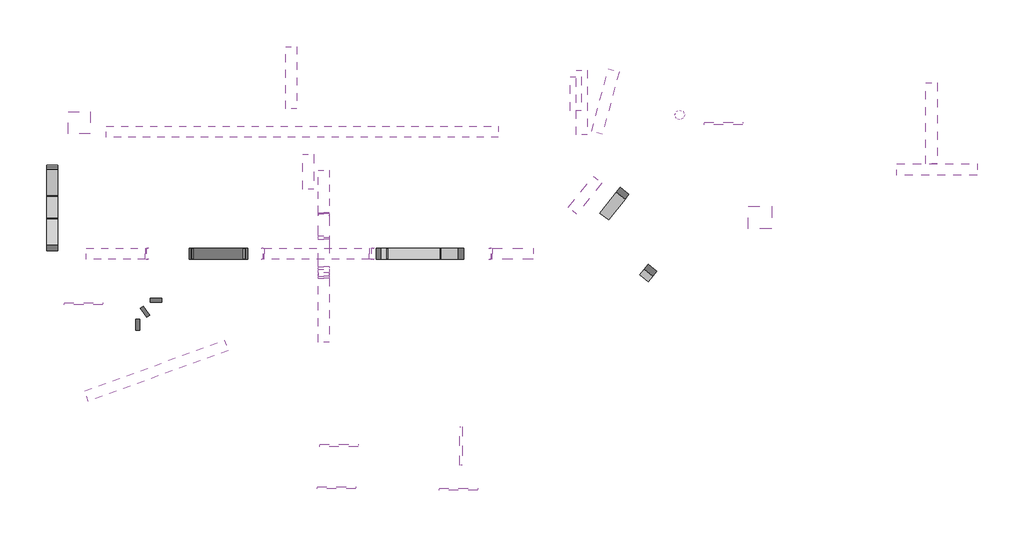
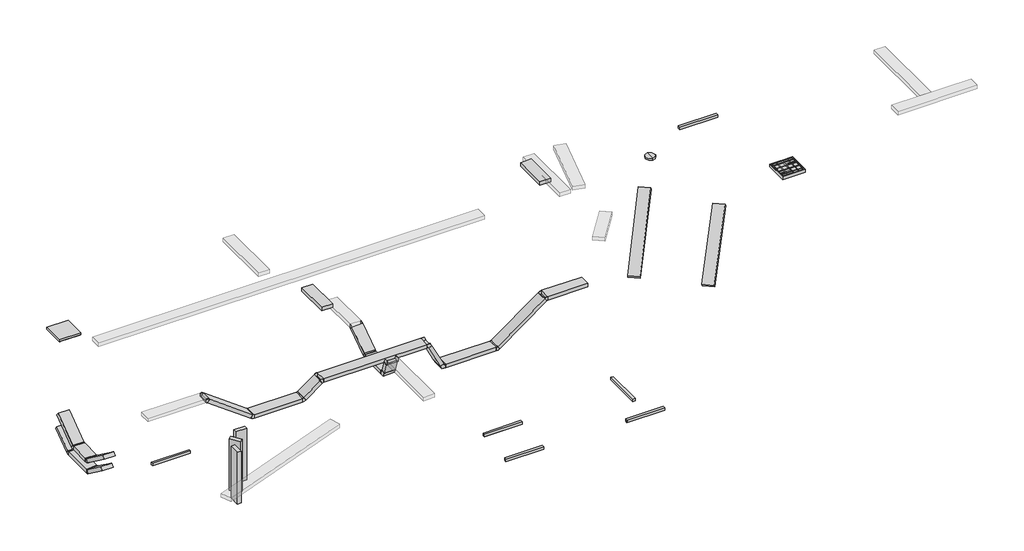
# One storey: 33 cable carrier segments, 16 cable carrier fittings, 9 light fixtures, 2 proxies.
"""IFC4 building model written with IfcOpenShell, lengths in millimetres."""

from ifc_helpers import new_model, si_unit, frame, origin, place, context, project, spatial, polyline, outline, extrude, transform, mapped, element, save
from components import cable_carrier_fitting_02251f9b, cable_carrier_fitting_fe5ecedc, cable_carrier_fitting_9b6415eb, cable_carrier_fitting_767802be, cable_carrier_fitting_05069e89, cable_carrier_fitting_a1beeaea, cable_carrier_fitting_74e421d1, cable_carrier_fitting_858e07ad, light_fixture_91a3bebd, light_fixture_7fb6fe20, light_fixture_b0669a9f, light_fixture_a1cd45f6

model = new_model("IFC4")

# Units and contexts
model_context = context("Model", 3, world=origin())
ifc_project = project(units=[si_unit("LENGTHUNIT", "METRE", prefix="MILLI")], contexts=[model_context])

# Site, building, storey
site = spatial("IfcSite", under=ifc_project)
building = spatial("IfcBuilding", under=site)
storey = spatial("IfcBuildingStorey", under=building, Name="Этаж 2", Elevation=2700.0)

# Proxies
placement = place(None, origin())
element("IfcBuildingElementProxy", 1, Name="Generic Models", at=placement, inside=storey, context=model_context, shape_type="SweptSolid", body=[
    extrude(outline(polyline([(4804.0620273, 5206.4556977), (4804.0620273, 6149.0371671), (5104.0620273, 6149.0371671), (5104.0620273, 5206.4556977), (4804.0620273, 5206.4556977)])), frame((0.0, 0.0, 4777.3029083), z_axis=(0.0, 0.0, 1.0), x_axis=(1.0, 0.0, 0.0)), (0.0, 0.0, 1.0), 100.0),
])
element("IfcBuildingElementProxy", 2, Name="Generic Models", at=placement, inside=storey, context=model_context, shape_type="SweptSolid", body=[
    extrude(outline(polyline([(12329.8443346, 7333.2443435), (12029.8443346, 7333.2443435), (12029.8443346, 8254.998348), (12329.8443346, 8254.998348), (12329.8443346, 7333.2443435)])), frame((0.0, 0.0, 4606.0342244), z_axis=(0.0, 0.0, 1.0), x_axis=(1.0, 0.0, 0.0)), (0.0, 0.0, 1.0), 100.0),
])

# Cable carrier fittings
cable_carrier_fitting_shape = cable_carrier_fitting_02251f9b(model_context)
element("IfcCableCarrierFitting", 3, ObjectType="ADSK_Поворот вертикальный внутренний_Минимальный размер : Неперфорированный", at=placement, inside=storey, context=model_context, shape_type="MappedRepresentation", body=[
    mapped(cable_carrier_fitting_shape, transform((8545.9883034, 3461.8472875, 3516.9108818), x_axis=(1.0, 0.0, 0.0), y_axis=(0.0, 0.0, 1.0), z_axis=(0.0, -1.0, 0.0))),
])
element("IfcCableCarrierFitting", 4, ObjectType="ADSK_Поворот вертикальный внутренний_Минимальный размер : Неперфорированный", at=placement, inside=storey, context=model_context, shape_type="MappedRepresentation", body=[
    mapped(cable_carrier_fitting_shape, transform((1820.5676861, 3461.8472875, 3894.8107115), x_axis=(0.8090169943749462, 0.0, -0.5877852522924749), y_axis=(0.5877852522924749, 0.0, 0.8090169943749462), z_axis=(0.0, -1.0, 0.0))),
])
element("IfcCableCarrierFitting", 5, ObjectType="ADSK_Поворот вертикальный внутренний_Минимальный размер : Неперфорированный", at=placement, inside=storey, context=model_context, shape_type="MappedRepresentation", body=[
    mapped(cable_carrier_fitting_shape, transform((3220.5676861, 3461.8472875, 3894.8107115), x_axis=(1.0, 0.0, 0.0), y_axis=(0.0, 0.0, 1.0), z_axis=(0.0, -1.0, 0.0))),
])
element("IfcCableCarrierFitting", 6, ObjectType="ADSK_Поворот вертикальный внутренний_Минимальный размер : Неперфорированный", at=placement, inside=storey, context=model_context, shape_type="MappedRepresentation", body=[
    mapped(cable_carrier_fitting_shape, transform((-1977.1885745, 5043.7276307, 3337.0925191), x_axis=(0.0, -0.809016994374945, -0.5877852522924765), y_axis=(0.0, -0.5877852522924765, 0.809016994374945), z_axis=(-1.0, 0.0, 0.0))),
])
element("IfcCableCarrierFitting", 7, ObjectType="ADSK_Поворот вертикальный внутренний_Минимальный размер : Неперфорированный", at=placement, inside=storey, context=model_context, shape_type="MappedRepresentation", body=[
    mapped(cable_carrier_fitting_shape, transform((-1977.1885745, 4403.7276307, 3337.0925191), x_axis=(0.0, -1.0, 0.0), y_axis=(0.0, 0.0, 1.0), z_axis=(-1.0, 0.0, 0.0))),
])
element("IfcCableCarrierFitting", 8, ObjectType="ADSK_Поворот вертикальный внутренний_Минимальный размер : Неперфорированный", at=placement, inside=storey, context=model_context, shape_type="MappedRepresentation", body=[
    mapped(cable_carrier_fitting_shape, transform((-1977.1885745, 4374.1457068, 3039.0596744), x_axis=(0.0, -1.0, 0.0), y_axis=(0.0, 0.0, 1.0), z_axis=(-1.0, 0.0, 0.0))),
])
element("IfcCableCarrierFitting", 9, ObjectType="ADSK_Поворот вертикальный внутренний_Минимальный размер : Неперфорированный", at=placement, inside=storey, context=model_context, shape_type="MappedRepresentation", body=[
    mapped(cable_carrier_fitting_shape, transform((-1977.1885745, 5274.1457068, 3039.0596744), x_axis=(0.0, 1.0, 0.0), y_axis=(0.0, 0.0, 1.0), z_axis=(1.0, 0.0, 0.0))),
])
cable_carrier_fitting_2_shape = cable_carrier_fitting_fe5ecedc(model_context)
element("IfcCableCarrierFitting", 10, ObjectType="ADSK_Поворот вертикальный наружный_Минимальный размер : Неперфорированный", at=placement, inside=storey, context=model_context, shape_type="MappedRepresentation", body=[
    mapped(cable_carrier_fitting_2_shape, transform((9891.245706, 3461.8472875, 4494.2975958), x_axis=(0.8090169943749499, 0.0, 0.5877852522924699), y_axis=(0.5877852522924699, 0.0, -0.8090169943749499), z_axis=(0.0, 1.0, 0.0))),
])
element("IfcCableCarrierFitting", 11, ObjectType="ADSK_Поворот вертикальный наружный_Минимальный размер : Неперфорированный", at=placement, inside=storey, context=model_context, shape_type="MappedRepresentation", body=[
    mapped(cable_carrier_fitting_2_shape, transform((574.6815147, 3461.8472875, 4800.0), x_axis=(1.0, 0.0, 0.0), y_axis=(0.0, 0.0, -1.0), z_axis=(0.0, 1.0, 0.0))),
])
element("IfcCableCarrierFitting", 12, ObjectType="ADSK_Поворот вертикальный наружный_Минимальный размер : Неперфорированный", at=placement, inside=storey, context=model_context, shape_type="MappedRepresentation", body=[
    mapped(cable_carrier_fitting_2_shape, transform((3730.5800203, 3461.8472875, 4265.3563621), x_axis=(0.8090169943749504, 0.0, 0.5877852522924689), y_axis=(0.5877852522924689, 0.0, -0.8090169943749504), z_axis=(0.0, 1.0, 0.0))),
])
cable_carrier_fitting_3_shape = cable_carrier_fitting_9b6415eb(model_context)
element("IfcCableCarrierFitting", 13, ObjectType="ADSK_Поворот вертикальный наружный_Минимальный размер : Неперфорированный", at=placement, inside=storey, context=model_context, shape_type="MappedRepresentation", body=[
    mapped(cable_carrier_fitting_3_shape, transform((6664.6362837, 3461.8472875, 4265.3563621), x_axis=(-0.45399049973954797, 0.0, 0.8910065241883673), y_axis=(-0.8910065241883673, 0.0, -0.45399049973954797), z_axis=(0.0, -1.0, 0.0))),
])
cable_carrier_fitting_4_shape = cable_carrier_fitting_767802be(model_context)
element("IfcCableCarrierFitting", 14, ObjectType="ADSK_Поворот вертикальный внутренний_Минимальный размер : Неперфорированный", at=placement, inside=storey, context=model_context, shape_type="MappedRepresentation", body=[
    mapped(cable_carrier_fitting_4_shape, transform((7045.9883034, 3461.8472875, 3516.9108818), x_axis=(0.45399049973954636, 0.0, -0.8910065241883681), y_axis=(0.8910065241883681, 0.0, 0.45399049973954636), z_axis=(0.0, -1.0, 0.0))),
])
cable_carrier_fitting_5_shape = cable_carrier_fitting_05069e89(model_context)
element("IfcCableCarrierFitting", 15, ObjectType="ADSK_Поворот вертикальный наружный_Минимальный размер : Неперфорированный", at=placement, inside=storey, context=model_context, shape_type="MappedRepresentation", body=[
    mapped(cable_carrier_fitting_5_shape, transform((5373.3360347, 4546.6029193, 4568.6284878), x_axis=(0.0, -1.0, 0.0), y_axis=(0.0, 0.0, -1.0), z_axis=(1.0, 0.0, 0.0))),
])
cable_carrier_fitting_6_shape = cable_carrier_fitting_a1beeaea(model_context)
element("IfcCableCarrierFitting", 16, ObjectType="ADSK_Поворот вертикальный внутренний_Минимальный размер : Неперфорированный", at=placement, inside=storey, context=model_context, shape_type="MappedRepresentation", body=[
    mapped(cable_carrier_fitting_6_shape, transform((5373.3360347, 3893.4529848, 4128.0732942), x_axis=(0.0, -0.8290375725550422, -0.5591929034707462), y_axis=(0.0, -0.5591929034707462, 0.8290375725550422), z_axis=(-1.0, 0.0, 0.0))),
])
cable_carrier_fitting_7_shape = cable_carrier_fitting_74e421d1(model_context)
element("IfcCableCarrierFitting", 17, ObjectType="ADSK_Поворот вертикальный внутренний_Минимальный размер : Неперфорированный", at=placement, inside=storey, context=model_context, shape_type="MappedRepresentation", body=[
    mapped(cable_carrier_fitting_7_shape, transform((5373.3360347, 3028.4529848, 4128.0732942), x_axis=(0.0, -1.0, 0.0), y_axis=(0.0, 0.0, 1.0), z_axis=(-1.0, 0.0, 0.0))),
])
cable_carrier_fitting_8_shape = cable_carrier_fitting_858e07ad(model_context)
element("IfcCableCarrierFitting", 18, ObjectType="ADSK_Поворот вертикальный наружный_Минимальный размер : Неперфорированный", at=placement, inside=storey, context=model_context, shape_type="MappedRepresentation", body=[
    mapped(cable_carrier_fitting_8_shape, transform((5373.3360347, 2876.7576664, 4568.6284878), x_axis=(0.0, -0.32556815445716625, 0.9455185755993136), y_axis=(0.0, -0.9455185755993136, -0.32556815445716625), z_axis=(1.0, 0.0, 0.0))),
])

# Cable carrier segments
element("IfcCableCarrierSegment", 19, ObjectType="Кабельный лоток в форме канала", at=placement, inside=storey, context=model_context, shape_type="SweptSolid", body=[
    extrude(outline(polyline([(-505.9749409, 6612.9267026), (-505.9749409, 6912.9267026), (10094.0250591, 6912.9267026), (10094.0250591, 6612.9267026), (-505.9749409, 6612.9267026)])), frame((0.0, 0.0, 4739.3269111), z_axis=(0.0, 0.0, 1.0), x_axis=(1.0, 0.0, 0.0)), (0.0, 0.0, 1.0), 100.0),
])
element("IfcCableCarrierSegment", 20, ObjectType="Кабельный лоток в форме канала", at=placement, inside=storey, context=model_context, shape_type="SweptSolid", body=[
    extrude(outline(polyline([(4635.6968466, 7387.8248173), (4335.6968466, 7387.8248173), (4335.6968466, 9067.8248173), (4635.6968466, 9067.8248173), (4635.6968466, 7387.8248173)])), frame((0.0, 0.0, 4606.0342244), z_axis=(0.0, 0.0, 1.0), x_axis=(1.0, 0.0, 0.0)), (0.0, 0.0, 1.0), 100.0),
])
element("IfcCableCarrierSegment", 21, ObjectType="Кабельный лоток в форме канала", at=placement, inside=storey, context=model_context, shape_type="SweptSolid", body=[
    extrude(outline(polyline([(-993.9281444, -528.1906891), (-1096.5341874, -246.2829029), (2681.0301482, 1128.6380733), (2783.6361912, 846.7302871), (-993.9281444, -528.1906891)])), frame((0.0, 0.0, 4739.33), z_axis=(0.0, 0.0, 1.0), x_axis=(1.0, 0.0, 0.0)), (0.0, 0.0, 1.0), 100.0),
])
element("IfcCableCarrierSegment", 22, ObjectType="Кабельный лоток в форме канала", at=placement, inside=storey, context=model_context, shape_type="SweptSolid", body=[
    extrude(outline(polyline([(12495.6968466, 6681.9067895), (12195.6968466, 6681.9067895), (12195.6968466, 8421.9067895), (12495.6968466, 8421.9067895), (12495.6968466, 6681.9067895)])), frame((0.0, 0.0, 4606.0342244), z_axis=(0.0, 0.0, 1.0), x_axis=(1.0, 0.0, 0.0)), (0.0, 0.0, 1.0), 100.0),
])
element("IfcCableCarrierSegment", 23, ObjectType="Кабельный лоток в форме канала", at=placement, inside=storey, context=model_context, shape_type="SweptSolid", body=[
    extrude(outline(polyline([(12212.7912563, 4538.1604145), (11979.6474678, 4726.9565318), (12659.3134902, 5566.2741702), (12892.4572786, 5377.4780529), (12212.7912563, 4538.1604145)])), frame((0.0, 0.0, 4606.0342244), z_axis=(0.0, 0.0, 1.0), x_axis=(1.0, 0.0, 0.0)), (0.0, 0.0, 1.0), 100.0),
])
element("IfcCableCarrierSegment", 24, ObjectType="Кабельный лоток в форме канала", at=placement, inside=storey, context=model_context, shape_type="SweptSolid", body=[
    extrude(outline(polyline([(0.0, -300.0), (0.0, 0.0), (2052.844784, -1e-07), (2052.844784, -300.0), (0.0, -300.0)])), frame((13953.190796, 2939.0068156, 3678.3624636), z_axis=(-0.36980965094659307, -0.4568723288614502, 0.8090169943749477), x_axis=(0.508999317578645, 0.6288308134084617, 0.5877852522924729)), (0.0, 0.0, 1.0), 100.0),
])
element("IfcCableCarrierSegment", 25, ObjectType="Кабельный лоток в форме канала", at=placement, inside=storey, context=model_context, shape_type="SweptSolid", body=[
    extrude(outline(polyline([(0.0, -299.9999999), (0.0, 0.0), (2242.5733021, 1e-07), (2242.5733021, -300.0), (0.0, -299.9999999)])), frame((14231.7468065, 5850.1173765, 4615.5803143), z_axis=(-0.3633061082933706, -0.46206078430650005, 0.8090169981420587), x_axis=(-0.5000479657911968, -0.6359721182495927, -0.5877852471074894)), (0.0, 0.0, 1.0), 100.0),
])
element("IfcCableCarrierSegment", 26, ObjectType="Кабельный лоток в форме канала", at=placement, inside=storey, context=model_context, shape_type="SweptSolid", body=[
    extrude(outline(polyline([(20866.1048147, 5592.9267026), (20866.1048147, 5892.9267026), (23046.1048147, 5892.9267026), (23046.1048147, 5592.9267026), (20866.1048147, 5592.9267026)])), frame((0.0, 0.0, 4606.03), z_axis=(0.0, 0.0, 1.0), x_axis=(1.0, 0.0, 0.0)), (0.0, 0.0, 1.0), 100.0),
])
element("IfcCableCarrierSegment", 27, ObjectType="Кабельный лоток в форме канала", at=placement, inside=storey, context=model_context, shape_type="SweptSolid", body=[
    extrude(outline(polyline([(21653.822684, 5892.9267026), (21653.822684, 8084.7093251), (21953.822684, 8084.7093251), (21953.822684, 5892.9267026), (21653.822684, 5892.9267026)])), frame((0.0, 0.0, 4606.03), z_axis=(0.0, 0.0, 1.0), x_axis=(1.0, 0.0, 0.0)), (0.0, 0.0, 1.0), 100.0),
])
element("IfcCableCarrierSegment", 28, ObjectType="ADSK_Неперфорированный кабельный лоток", at=placement, inside=storey, context=model_context, shape_type="SweptSolid", body=[
    extrude(outline(polyline([(-1053.5295557, 3311.8472875), (-1053.5295557, 3611.8472875), (542.1895451, 3611.8472875), (542.1895451, 3311.8472875), (-1053.5295557, 3311.8472875)])), frame((0.0, 0.0, 4750.0), z_axis=(0.0, 0.0, 1.0), x_axis=(1.0, 0.0, 0.0)), (0.0, 0.0, 1.0), 100.0),
])
element("IfcCableCarrierSegment", 29, ObjectType="ADSK_Неперфорированный кабельный лоток", at=placement, inside=storey, context=model_context, shape_type="SweptSolid", body=[
    extrude(outline(polyline([(3763.0719899, 3311.8472875), (3763.0719899, 3611.8472875), (6603.3562048, 3611.8472875), (6603.3562048, 3311.8472875), (3763.0719899, 3311.8472875)])), frame((0.0, 0.0, 4215.3563621), z_axis=(0.0, 0.0, 1.0), x_axis=(1.0, 0.0, 0.0)), (0.0, 0.0, 1.0), 100.0),
])
element("IfcCableCarrierSegment", 30, ObjectType="ADSK_Неперфорированный кабельный лоток", at=placement, inside=storey, context=model_context, shape_type="SweptSolid", body=[
    extrude(outline(polyline([(-50.0000001, -308.113883), (-50.0000001, -8.113883), (50.0, -8.113883), (50.0, -308.113883), (-50.0000001, -308.113883)])), frame((7014.5067487, 3619.9611705, 3578.6969119), z_axis=(-0.45399049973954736, 0.0, 0.8910065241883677), x_axis=(0.8910065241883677, 0.0, 0.45399049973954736)), (0.0, 0.0, 1.0), 709.3758384),
])
element("IfcCableCarrierSegment", 31, ObjectType="ADSK_Неперфорированный кабельный лоток", at=placement, inside=storey, context=model_context, shape_type="SweptSolid", body=[
    extrude(outline(polyline([(7115.3323862, 3311.8472875), (7115.3323862, 3611.8472875), (8506.8717353, 3611.8472875), (8506.8717353, 3311.8472875), (7115.3323862, 3311.8472875)])), frame((0.0, 0.0, 3466.9108818), z_axis=(0.0, 0.0, 1.0), x_axis=(1.0, 0.0, 0.0)), (0.0, 0.0, 1.0), 100.0),
])
element("IfcCableCarrierSegment", 32, ObjectType="ADSK_Неперфорированный кабельный лоток", at=placement, inside=storey, context=model_context, shape_type="SweptSolid", body=[
    extrude(outline(polyline([(0.0, -300.0), (0.0, 0.0), (1591.2210591, 0.0), (1591.2210591, -300.0), (0.0, -300.0)])), frame((8607.0235344, 3611.8472875, 3499.4521739), z_axis=(-0.5877852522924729, 0.0, 0.8090169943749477), x_axis=(0.8090169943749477, 0.0, 0.5877852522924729)), (0.0, 0.0, 1.0), 100.0),
])
element("IfcCableCarrierSegment", 33, ObjectType="ADSK_Неперфорированный кабельный лоток", at=placement, inside=storey, context=model_context, shape_type="SweptSolid", body=[
    extrude(outline(polyline([(9923.7376756, 3311.8472875), (9923.7376756, 3611.8472875), (11028.2484286, 3611.8472875), (11028.2484286, 3311.8472875), (9923.7376756, 3311.8472875)])), frame((0.0, 0.0, 4444.2975958), z_axis=(0.0, 0.0, 1.0), x_axis=(1.0, 0.0, 0.0)), (0.0, 0.0, 1.0), 100.0),
])
element("IfcCableCarrierSegment", 34, ObjectType="ADSK_Неперфорированный кабельный лоток", at=placement, inside=storey, context=model_context, shape_type="SweptSolid", body=[
    extrude(outline(polyline([(5223.3360347, 5716.9035072), (5523.3360347, 5716.9035072), (5523.3360347, 4577.1759874), (5223.3360347, 4577.1759874), (5223.3360347, 5716.9035072)])), frame((0.0, 0.0, 4518.6284878), z_axis=(0.0, 0.0, 1.0), x_axis=(1.0, 0.0, 0.0)), (0.0, 0.0, 1.0), 100.0),
])
element("IfcCableCarrierSegment", 35, ObjectType="ADSK_Неперфорированный кабельный лоток", at=placement, inside=storey, context=model_context, shape_type="SweptSolid", body=[
    extrude(outline(polyline([(0.0, -300.0), (0.0, 0.0), (720.1663844, 0.0), (720.1663844, -300.0), (0.0, -300.0)])), frame((5523.3360347, 4549.2163423, 4510.0803664), z_axis=(0.0, -0.5591929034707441, 0.8290375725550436), x_axis=(0.0, -0.8290375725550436, -0.5591929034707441)), (0.0, 0.0, 1.0), 100.0),
])
element("IfcCableCarrierSegment", 36, ObjectType="ADSK_Неперфорированный кабельный лоток", at=placement, inside=storey, context=model_context, shape_type="SweptSolid", body=[
    extrude(outline(polyline([(5223.3360347, 3856.3512632), (5523.3360347, 3856.3512632), (5523.3360347, 3108.3487569), (5223.3360347, 3108.3487569), (5223.3360347, 3856.3512632)])), frame((0.0, 0.0, 4078.0732942), z_axis=(0.0, 0.0, 1.0), x_axis=(1.0, 0.0, 0.0)), (0.0, 0.0, 1.0), 100.0),
])
element("IfcCableCarrierSegment", 37, ObjectType="ADSK_Неперфорированный кабельный лоток", at=placement, inside=storey, context=model_context, shape_type="SweptSolid", body=[
    extrude(outline(polyline([(-150.0, 108.1138829), (-150.0, 208.113883), (150.0, 208.113883), (150.0, 108.1138829), (-150.0, 108.1138829)])), frame((5373.3360347, 2852.9418523, 4152.1393858), z_axis=(0.0, -0.32556815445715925, 0.945518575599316), x_axis=(1.0, 0.0, 0.0)), (0.0, 0.0, 1.0), 314.715205),
])
element("IfcCableCarrierSegment", 38, ObjectType="ADSK_Неперфорированный кабельный лоток", at=placement, inside=storey, context=model_context, shape_type="SweptSolid", body=[
    extrude(outline(polyline([(5223.3360347, 2805.4283597), (5523.3360347, 2805.4283597), (5523.3360347, 1071.7576664), (5223.3360347, 1071.7576664), (5223.3360347, 2805.4283597)])), frame((0.0, 0.0, 4518.6284878), z_axis=(0.0, 0.0, 1.0), x_axis=(1.0, 0.0, 0.0)), (0.0, 0.0, 1.0), 100.0),
])
element("IfcCableCarrierSegment", 39, ObjectType="Кабельный лоток в форме канала", at=placement, inside=storey, context=model_context, shape_type="SweptSolid", body=[
    extrude(outline(polyline([(13063.899516, 8460.7296463), (13353.6772639, 8383.0839327), (12900.9029291, 6693.3071112), (12611.1251813, 6770.9528248), (13063.899516, 8460.7296463)])), frame((0.0, 0.0, 4606.03), z_axis=(0.0, 0.0, 1.0), x_axis=(1.0, 0.0, 0.0)), (0.0, 0.0, 1.0), 100.0),
])
element("IfcCableCarrierSegment", 40, ObjectType="ADSK_Неперфорированный кабельный лоток", at=placement, inside=storey, context=model_context, shape_type="SweptSolid", body=[
    extrude(outline(polyline([(0.0, -300.0), (0.0, 0.0), (1468.3914623, 0.0), (1468.3914623, -300.0), (0.0, -300.0)])), frame((571.5788077, 3611.8472875, 4740.4508497), z_axis=(0.5877852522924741, 0.0, 0.8090169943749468), x_axis=(0.8090169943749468, 0.0, -0.5877852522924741)), (0.0, 0.0, 1.0), 100.0),
])
element("IfcCableCarrierSegment", 41, ObjectType="ADSK_Неперфорированный кабельный лоток", at=placement, inside=storey, context=model_context, shape_type="SweptSolid", body=[
    extrude(outline(polyline([(1859.6842542, 3311.8472875), (1859.6842542, 3611.8472875), (3181.451118, 3611.8472875), (3181.451118, 3311.8472875), (1859.6842542, 3311.8472875)])), frame((0.0, 0.0, 3844.8107115), z_axis=(0.0, 0.0, 1.0), x_axis=(1.0, 0.0, 0.0)), (0.0, 0.0, 1.0), 100.0),
])
element("IfcCableCarrierSegment", 42, ObjectType="ADSK_Неперфорированный кабельный лоток", at=placement, inside=storey, context=model_context, shape_type="SweptSolid", body=[
    extrude(outline(polyline([(0.0, -300.0), (0.0, 0.0), (558.8013768, 0.0), (558.8013768, -300.0), (0.0, -300.0)])), frame((3281.602917, 3611.8472875, 3877.3520036), z_axis=(-0.5877852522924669, 0.0, 0.809016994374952), x_axis=(0.809016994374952, 0.0, 0.5877852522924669)), (0.0, 0.0, 1.0), 100.0),
])
element("IfcCableCarrierSegment", 43, ObjectType="ADSK_Неперфорированный кабельный лоток", at=placement, inside=storey, context=model_context, shape_type="SweptSolid", body=[
    extrude(outline(polyline([(289.9139786, 1397.3039019), (289.9139786, 1697.3039019), (389.9139786, 1697.3039019), (389.9139786, 1397.3039019), (289.9139786, 1397.3039019)])), frame((0.0, 0.0, 3056.0276719), z_axis=(0.0, 0.0, 1.0), x_axis=(1.0, 0.0, 0.0)), (0.0, 0.0, 1.0), 1500.0),
])
element("IfcCableCarrierSegment", 44, ObjectType="ADSK_Неперфорированный кабельный лоток", at=placement, inside=storey, context=model_context, shape_type="SweptSolid", body=[
    extrude(outline(polyline([(983.8595578, 2159.2422867), (683.8595578, 2159.2422867), (683.8595578, 2259.2422867), (983.8595578, 2259.2422867), (983.8595578, 2159.2422867)])), frame((0.0, 0.0, 3056.0276719), z_axis=(0.0, 0.0, 1.0), x_axis=(1.0, 0.0, 0.0)), (0.0, 0.0, 1.0), 1500.0),
])
element("IfcCableCarrierSegment", 45, ObjectType="ADSK_Неперфорированный кабельный лоток", at=placement, inside=storey, context=model_context, shape_type="SweptSolid", body=[
    extrude(outline(polyline([(586.0817072, 1748.1376734), (409.7461315, 1990.8427717), (490.647831, 2049.6212969), (666.9834067, 1806.9161986), (586.0817072, 1748.1376734)])), frame((0.0, 0.0, 3056.0276719), z_axis=(0.0, 0.0, 1.0), x_axis=(1.0, 0.0, 0.0)), (0.0, 0.0, 1.0), 1500.0),
])
element("IfcCableCarrierSegment", 46, ObjectType="ADSK_Неперфорированный кабельный лоток", at=placement, inside=storey, context=model_context, shape_type="SweptSolid", body=[
    extrude(outline(polyline([(0.0, -300.0), (0.0, 0.0), (860.8834319, 0.0), (860.8834319, -300.0), (0.0, -300.0)])), frame((-1827.1885745, 5801.2321882, 3825.6483964), z_axis=(0.0, -0.5877852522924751, 0.809016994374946), x_axis=(0.0, -0.809016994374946, -0.5877852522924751)), (0.0, 0.0, 1.0), 100.0),
])
element("IfcCableCarrierSegment", 47, ObjectType="ADSK_Неперфорированный кабельный лоток", at=placement, inside=storey, context=model_context, shape_type="SweptSolid", body=[
    extrude(outline(polyline([(-2127.1885745, 5004.6110626), (-1827.1885745, 5004.6110626), (-1827.1885745, 4442.8441988), (-2127.1885745, 4442.8441988), (-2127.1885745, 5004.6110626)])), frame((0.0, 0.0, 3287.0925191), z_axis=(0.0, 0.0, 1.0), x_axis=(1.0, 0.0, 0.0)), (0.0, 0.0, 1.0), 100.0),
])
element("IfcCableCarrierSegment", 48, ObjectType="ADSK_Неперфорированный кабельный лоток", at=placement, inside=storey, context=model_context, shape_type="SweptSolid", body=[
    extrude(outline(polyline([(0.0, -300.0), (0.0, 0.0), (980.8834319, 0.0), (980.8834319, -300.0), (0.0, -300.0)])), frame((-1827.1885745, 4342.6923997, 3319.6338112), z_axis=(0.0, 0.5877852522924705, 0.8090169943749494), x_axis=(0.0, -0.8090169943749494, 0.5877852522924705)), (0.0, 0.0, 1.0), 100.0),
])
element("IfcCableCarrierSegment", 49, ObjectType="ADSK_Неперфорированный кабельный лоток", at=placement, inside=storey, context=model_context, shape_type="SweptSolid", body=[
    extrude(outline(polyline([(0.0, -300.0), (0.0, 0.0), (820.8834319, 0.0), (820.8834319, -300.0), (0.0, -300.0)])), frame((-1827.1885745, 4313.1104758, 3021.6009666), z_axis=(0.0, 0.5877852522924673, 0.8090169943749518), x_axis=(0.0, -0.8090169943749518, 0.5877852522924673)), (0.0, 0.0, 1.0), 100.0),
])
element("IfcCableCarrierSegment", 50, ObjectType="ADSK_Неперфорированный кабельный лоток", at=placement, inside=storey, context=model_context, shape_type="SweptSolid", body=[
    extrude(outline(polyline([(-1827.1885745, 4413.2622749), (-2127.1885745, 4413.2622749), (-2127.1885745, 5235.0291387), (-1827.1885745, 5235.0291387), (-1827.1885745, 4413.2622749)])), frame((0.0, 0.0, 2989.0596744), z_axis=(0.0, 0.0, 1.0), x_axis=(1.0, 0.0, 0.0)), (0.0, 0.0, 1.0), 100.0),
])
element("IfcCableCarrierSegment", 51, ObjectType="ADSK_Неперфорированный кабельный лоток", at=placement, inside=storey, context=model_context, shape_type="SweptSolid", body=[
    extrude(outline(polyline([(0.0, -300.0), (0.0, 0.0), (645.8834319, 0.0), (645.8834319, -300.0), (0.0, -300.0)])), frame((-2127.1885745, 5335.1809378, 3021.6009666), z_axis=(0.0, -0.5877852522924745, 0.8090169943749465), x_axis=(0.0, 0.8090169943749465, 0.5877852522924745)), (0.0, 0.0, 1.0), 100.0),
])

# Light fixtures
light_fixture_shape = light_fixture_91a3bebd(model_context)
element("IfcLightFixture", 52, ObjectType="OPL S (открыто) : OPL S", at=placement, inside=storey, context=model_context, shape_type="MappedRepresentation", body=[
    mapped(light_fixture_shape, transform((-1242.2390875, 7005.0947298, 5250.0), x_axis=(1.0, 0.0, 0.0), y_axis=(0.0, -1.0, 0.0), z_axis=(0.0, 0.0, -1.0))),
])
light_fixture_2_shape = light_fixture_7fb6fe20(model_context)
element("IfcLightFixture", 53, ObjectType="ARS_S UNI LED (открыто) : ARS_S UNI LED (открыто)", at=placement, inside=storey, context=model_context, shape_type="MappedRepresentation", body=[
    mapped(light_fixture_2_shape, transform((17164.9977975, 4440.0, 5100.0), x_axis=(1.0, 0.0, 0.0), y_axis=(0.0, -1.0, 0.0), z_axis=(0.0, 0.0, -1.0))),
])
light_fixture_3_shape = light_fixture_b0669a9f(model_context)
element("IfcLightFixture", 54, ObjectType="LF_ОП_ТЛ : ДБО85_16_001_16Вт", at=placement, inside=storey, context=model_context, shape_type="MappedRepresentation", body=[
    mapped(light_fixture_3_shape, transform((14993.9993624, 7218.7907477, 4500.0), x_axis=(1.0, 0.0, 0.0), y_axis=(0.0, 1.0, 0.0), z_axis=(0.0, 0.0, 1.0))),
])
light_fixture_4_shape = light_fixture_a1cd45f6(model_context)
element("IfcLightFixture", 55, ObjectType="LF_ОП_ТЛ : ДСП52_34_171_34Вт", at=placement, inside=storey, context=model_context, shape_type="MappedRepresentation", body=[
    mapped(light_fixture_4_shape, transform((-1124.8669319, 2111.7083759, 4499.9964), x_axis=(1.0, 0.0, 0.0), y_axis=(0.0, 1.0, 0.0), z_axis=(0.0, 0.0, 1.0))),
])
element("IfcLightFixture", 56, ObjectType="LF_ОП_ТЛ : ДСП52_34_171_34Вт", at=placement, inside=storey, context=model_context, shape_type="MappedRepresentation", body=[
    mapped(light_fixture_4_shape, transform((5710.9898947, -2864.414074, 5250.0), x_axis=(1.0, 0.0, 0.0), y_axis=(0.0, 1.0, 0.0), z_axis=(0.0, 0.0, 1.0))),
])
element("IfcLightFixture", 57, ObjectType="LF_ОП_ТЛ : ДСП52_34_171_34Вт", at=placement, inside=storey, context=model_context, shape_type="MappedRepresentation", body=[
    mapped(light_fixture_4_shape, transform((5779.8472761, -1718.9928721, 5250.0), x_axis=(1.0, 0.0, 0.0), y_axis=(0.0, 1.0, 0.0), z_axis=(0.0, 0.0, 1.0))),
])
element("IfcLightFixture", 58, ObjectType="LF_ОП_ТЛ : ДСП52_34_171_34Вт", at=placement, inside=storey, context=model_context, shape_type="MappedRepresentation", body=[
    mapped(light_fixture_4_shape, transform((9079.8406761, -1731.4928471, 5250.0), x_axis=(0.0, -1.0, 0.0), y_axis=(1.0, 0.0, 0.0), z_axis=(0.0, 0.0, 1.0))),
])
element("IfcLightFixture", 59, ObjectType="LF_ОП_ТЛ : ДСП52_34_171_34Вт", at=placement, inside=storey, context=model_context, shape_type="MappedRepresentation", body=[
    mapped(light_fixture_4_shape, transform((9010.9832947, -2901.913999, 5250.0), x_axis=(-1.0, 0.0, 0.0), y_axis=(0.0, -1.0, 0.0), z_axis=(0.0, 0.0, 1.0))),
])
element("IfcLightFixture", 60, ObjectType="LF_ОП_ТЛ : ДСП52_34_171_34Вт", at=placement, inside=storey, context=model_context, shape_type="MappedRepresentation", body=[
    mapped(light_fixture_4_shape, transform((16176.3827863, 6990.0438006, 5250.0), x_axis=(-1.0, 0.0, 0.0), y_axis=(0.0, -1.0, 0.0), z_axis=(0.0, 0.0, 1.0))),
])

save(model, "model.ifc")
